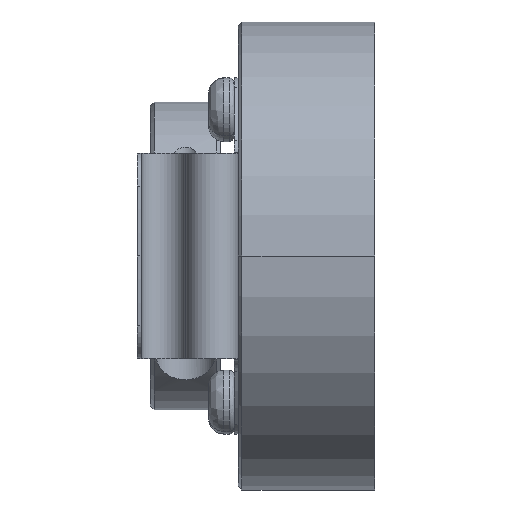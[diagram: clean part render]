
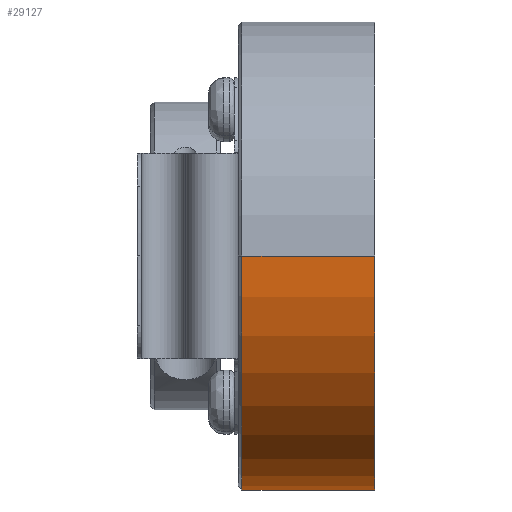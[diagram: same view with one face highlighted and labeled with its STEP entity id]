
A CAD part, front view. The second image highlights one B-rep face of the part: STEP entity #29127.
In plain terms, the highlighted cylindrical face has radius 18.25 mm (diameter 36.5 mm), a partial arc.
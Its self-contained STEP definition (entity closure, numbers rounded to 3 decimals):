
#1506 = DIRECTION ( 'NONE',  ( -1., 0., 0. ) ) ;
#2060 = VERTEX_POINT ( 'NONE', #5653 ) ;
#2682 = CARTESIAN_POINT ( 'NONE',  ( -1000., 0., 0. ) ) ;
#3717 = VECTOR ( 'NONE', #17784, 1000. ) ;
#3749 = EDGE_CURVE ( 'NONE', #14820, #5995, #27905, .T. ) ;
#4808 = DIRECTION ( 'NONE',  ( -1., 0., 0. ) ) ;
#5506 = LINE ( 'NONE', #22378, #3717 ) ;
#5653 = CARTESIAN_POINT ( 'NONE',  ( -1.3, -18.25, 0. ) ) ;
#5995 = VERTEX_POINT ( 'NONE', #23010 ) ;
#6250 = EDGE_CURVE ( 'NONE', #16346, #5995, #5506, .T. ) ;
#6429 = FACE_OUTER_BOUND ( 'NONE', #16221, .T. ) ;
#8674 = VECTOR ( 'NONE', #16200, 1000. ) ;
#9495 = CIRCLE ( 'NONE', #27854, 18.25 ) ;
#12565 = CYLINDRICAL_SURFACE ( 'NONE', #13910, 18.25 ) ;
#13479 = DIRECTION ( 'NONE',  ( 0., 1., 0. ) ) ;
#13910 = AXIS2_PLACEMENT_3D ( 'NONE', #2682, #4808, #14162 ) ;
#14162 = DIRECTION ( 'NONE',  ( 0., 1., 0. ) ) ;
#14820 = VERTEX_POINT ( 'NONE', #28042 ) ;
#15821 = EDGE_CURVE ( 'NONE', #16346, #2060, #9495, .T. ) ;
#16200 = DIRECTION ( 'NONE',  ( -1., 0., 0. ) ) ;
#16221 = EDGE_LOOP ( 'NONE', ( #29155, #23455, #18315, #26670 ) ) ;
#16346 = VERTEX_POINT ( 'NONE', #21879 ) ;
#16713 = EDGE_CURVE ( 'NONE', #2060, #14820, #29104, .T. ) ;
#17784 = DIRECTION ( 'NONE',  ( -1., 0., 0. ) ) ;
#18315 = ORIENTED_EDGE ( 'NONE', *, *, #3749, .T. ) ;
#20959 = CARTESIAN_POINT ( 'NONE',  ( -1000., -18.25, 0. ) ) ;
#21879 = CARTESIAN_POINT ( 'NONE',  ( -1.3, 18.25, 0. ) ) ;
#22018 = DIRECTION ( 'NONE',  ( 0., 1., 0. ) ) ;
#22378 = CARTESIAN_POINT ( 'NONE',  ( -1000., 18.25, 0. ) ) ;
#22524 = CARTESIAN_POINT ( 'NONE',  ( -11.65, 0., 0. ) ) ;
#23010 = CARTESIAN_POINT ( 'NONE',  ( -11.65, 18.25, 0. ) ) ;
#23455 = ORIENTED_EDGE ( 'NONE', *, *, #16713, .T. ) ;
#26253 = AXIS2_PLACEMENT_3D ( 'NONE', #22524, #27119, #13479 ) ;
#26670 = ORIENTED_EDGE ( 'NONE', *, *, #6250, .F. ) ;
#27119 = DIRECTION ( 'NONE',  ( 1., 0., 0. ) ) ;
#27854 = AXIS2_PLACEMENT_3D ( 'NONE', #29036, #1506, #22018 ) ;
#27905 = CIRCLE ( 'NONE', #26253, 18.25 ) ;
#28042 = CARTESIAN_POINT ( 'NONE',  ( -11.65, -18.25, 0. ) ) ;
#29036 = CARTESIAN_POINT ( 'NONE',  ( -1.3, 0., 0. ) ) ;
#29104 = LINE ( 'NONE', #20959, #8674 ) ;
#29127 = ADVANCED_FACE ( 'NONE', ( #6429 ), #12565, .T. ) ;
#29155 = ORIENTED_EDGE ( 'NONE', *, *, #15821, .T. ) ;
